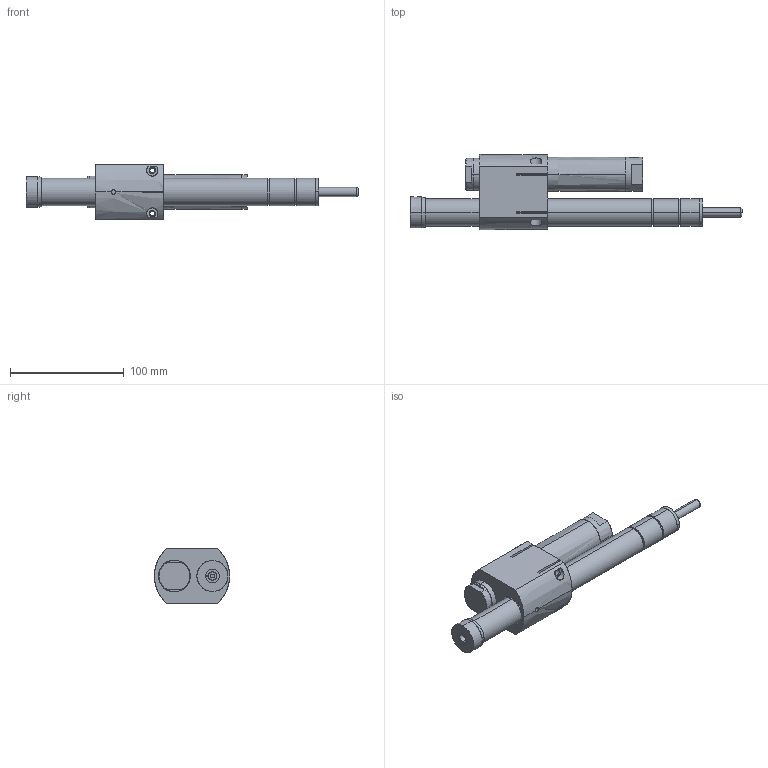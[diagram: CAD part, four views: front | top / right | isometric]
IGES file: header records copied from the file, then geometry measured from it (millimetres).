
Start section: SolidWorks IGES file using analytic representation for surfaces
Global section: file name: D:\IGS跡宒\HRT35.IGS,1; native system: 5HSolidWorks 2013; preprocessor: SolidWorks 2013; author: Administrator; date: 160406.154052; units: inch
Bounding box: 291.9 x 66 x 48 mm (x, y, z)
Surface area: 57468.5 mm2 (no closed solid volume)
Topology: 0 solids, 0 shells, 144 faces, 2911 edges, 2909 vertices
Faces by surface type: revolution 95, bspline 49
